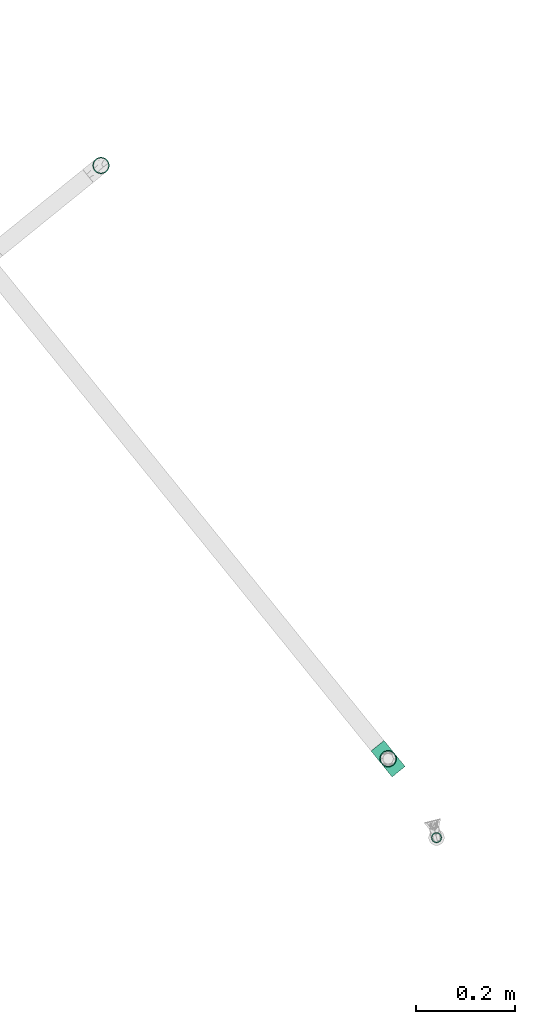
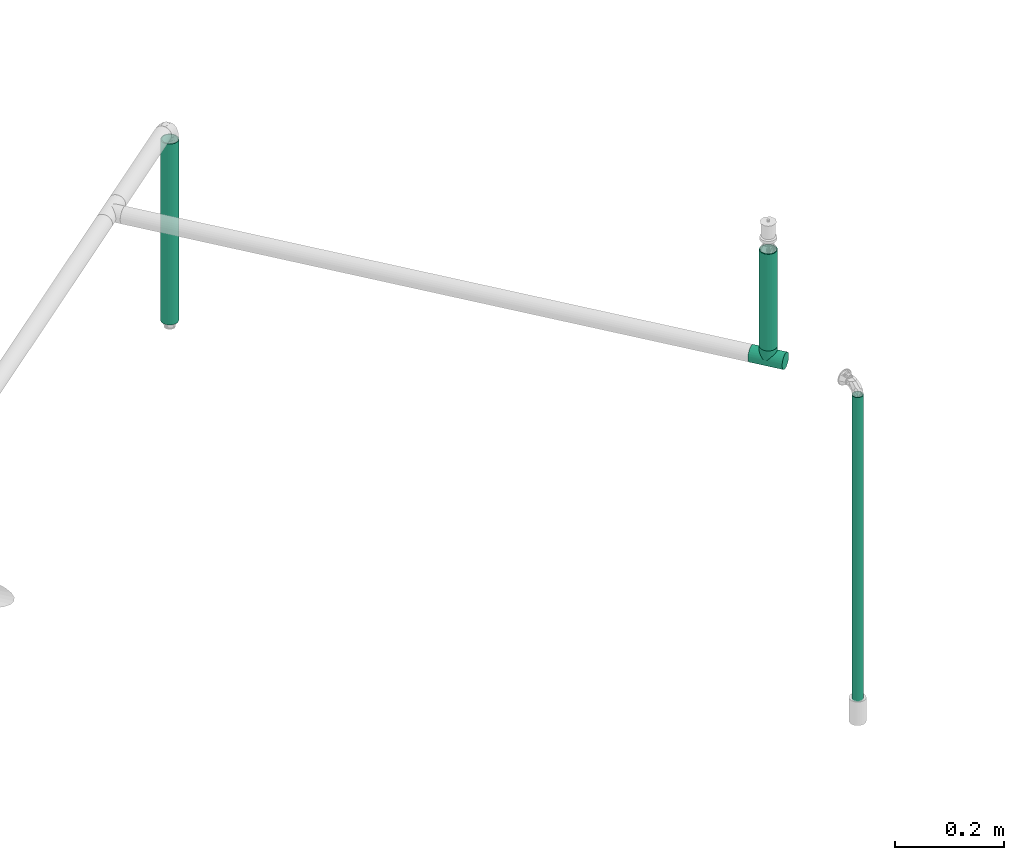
# One storey, part 21 of 94: 3 flow segments, 1 flow fitting.
"""IFC2X3 building model written with IfcOpenShell, lengths in millimetres."""

from ifc_helpers import new_model, entity, si_unit, converted_unit, derived_unit, direction, frame, origin_with_axes, origin_2d_with_axis, place, context, subcontext, project, spatial, hollow_circle, extrude, open_shell, surface_model, source, transform, mapped, type_object, element, save


model = new_model("IFC2X3")

# Units and contexts
model_context = context("Model", 3, precision=0.01, world=frame((0.0, 4.29681676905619e-09, 0.0)), true_north=direction((4.01073788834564e-13, 1.0)))
plan_context = context("Plan", 3, precision=0.01, world=frame((0.0, 4.29681676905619e-09, 0.0)), true_north=direction((4.01073788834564e-13, 1.0)))
body_context = subcontext(model_context, "Body", "Model", "MODEL_VIEW")
ifc_project = project(units=[converted_unit("PLANEANGLEUNIT", "DEGREE", entity("IfcPositiveLengthMeasure", 0.0174532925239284), si_unit("PLANEANGLEUNIT", "RADIAN"), dimensions=[0, 0, 0, 0, 0, 0, 0]), si_unit("AREAUNIT", "SQUARE_METRE"), si_unit("LENGTHUNIT", "METRE", prefix="MILLI"), si_unit("MASSUNIT", "GRAM", prefix="KILO"), si_unit("POWERUNIT", "WATT"), si_unit("PRESSUREUNIT", "PASCAL", prefix="KILO"), si_unit("FORCEUNIT", "NEWTON", prefix="KILO"), si_unit("ELECTRICVOLTAGEUNIT", "VOLT"), si_unit("ELECTRICCURRENTUNIT", "AMPERE"), si_unit("THERMODYNAMICTEMPERATUREUNIT", "DEGREE_CELSIUS"), si_unit("TIMEUNIT", "SECOND"), si_unit("VOLUMEUNIT", "CUBIC_METRE"), derived_unit("LINEARVELOCITYUNIT", [(si_unit("LENGTHUNIT", "METRE"), 1), (si_unit("TIMEUNIT", "SECOND"), -1)]), derived_unit("VOLUMETRICFLOWRATEUNIT", [(si_unit("VOLUMEUNIT", "CUBIC_METRE"), 1), (si_unit("TIMEUNIT", "SECOND"), -1)]), derived_unit("THERMALTRANSMITTANCEUNIT", [(si_unit("POWERUNIT", "WATT"), 1), (si_unit("THERMODYNAMICTEMPERATUREUNIT", "KELVIN"), -1), (si_unit("AREAUNIT", "SQUARE_METRE"), -1)]), derived_unit("SOUNDPRESSUREUNIT", [(si_unit("PRESSUREUNIT", "PASCAL"), 1)])], contexts=[model_context, plan_context])

# Site, building, storey
site_placement = place(None, frame((0.0, -4.29681676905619e-09, 0.0), z_axis=(0.0, 0.0, 1.0), x_axis=(1.0, 0.0, 0.0)))
site = spatial("IfcSite", under=ifc_project, at=site_placement, CompositionType="ELEMENT")
building_placement = place(site_placement, frame((0.0, 4.29681676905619e-09, 0.0), z_axis=(0.0, 0.0, 1.0), x_axis=(1.0, 0.0, 0.0)))
building = spatial("IfcBuilding", under=site, at=building_placement, Name="mc-building", CompositionType="ELEMENT")
storey_placement = place(building_placement, frame((0.0, 0.0, 210900.0), z_axis=(0.0, 0.0, 1.0), x_axis=(1.0, 0.0, 0.0)))
storey = spatial("IfcBuildingStorey", under=building, at=storey_placement, Name="Nivå F", CompositionType="ELEMENT", Elevation=210900.0)

# Flow fitting
pipe_fitting_type = type_object("IfcPipeFittingType", Name="magi_pipe_fe_tee_centric_90_NOR", PredefinedType="JUNCTION")
shared_shape_1 = source(origin_with_axes(), body_context, "Body", "SurfaceModel", [
    surface_model("IfcShellBasedSurfaceModel", [(-33.8, 4.37404, -16.32415), (-33.8, 0.0, -16.9), (-33.8, 16.32415, -4.37404), (-33.8, 8.45, -14.63583), (-33.8, 11.9501, -11.9501), (-33.8, 14.63583, -8.45), (-33.8, -16.9, 0.0), (-33.8, -11.9501, -11.9501), (-33.8, -14.63583, -8.45), (-33.8, -8.45, -14.63583), (-33.8, -4.37404, -16.32415), (-33.8, -16.32415, -4.37404), (-33.8, 14.63583, 8.45), (-33.8, 16.32415, 4.37404), (-33.8, -8.45, 14.63583), (-33.8, 8.45, 14.63583), (-33.8, 11.9501, 11.9501), (-33.8, 4.37404, 16.32415), (-33.8, 0.0, 16.9), (-33.8, -11.9501, 11.9501), (-33.8, -14.63583, 8.45), (-33.8, -16.32415, 4.37404), (-33.8, -4.37404, 16.32415), (-33.8, 16.9, 0.0), (33.8, 4.37404, -16.32415), (33.8, -16.9, 0.0), (33.8, 0.0, -16.9), (33.8, 14.63583, -8.45), (33.8, 8.45, -14.63583), (33.8, 16.32415, -4.37404), (33.8, 11.9501, -11.9501), (33.8, -16.32415, 4.37404), (33.8, -8.45, -14.63583), (33.8, -4.37404, -16.32415), (33.8, -11.9501, -11.9501), (33.8, -14.63583, -8.45), (33.8, -16.32415, -4.37404), (33.8, 16.32415, 4.37404), (33.8, 8.45, 14.63583), (33.8, 14.63583, 8.45), (33.8, 11.9501, 11.9501), (33.8, -8.45, 14.63583), (33.8, 4.37404, 16.32415), (33.8, -14.63583, 8.45), (33.8, -11.9501, 11.9501), (33.8, 0.0, 16.9), (33.8, -4.37404, 16.32415), (33.8, 16.9, 0.0), (16.28698, -16.28698, 4.51047), (16.9, -16.9, 0.0), (14.62704, -14.62704, 8.4652), (9.47213, -9.47213, 13.99602), (12.26343, -12.26343, 11.62834), (-16.9, -16.9, 0.0), (-16.28698, -16.28698, 4.51047), (-14.62704, -14.62704, 8.4652), (-12.26343, -12.26343, 11.62834), (-9.47213, -9.47213, 13.99602), (-6.42894, -6.42894, 15.62942), (6.42894, -6.42894, 15.62942), (3.24522, -3.24522, 16.58549), (0.0, 0.0, 16.9), (-3.24522, -3.24522, 16.58549), (3.24522, -3.24522, -16.58549), (0.0, 0.0, -16.9), (-3.24522, -3.24522, -16.58549), (-6.42894, -6.42894, -15.62942), (6.42894, -6.42894, -15.62942), (9.47213, -9.47213, -13.99602), (12.26343, -12.26343, -11.62834), (14.62704, -14.62704, -8.4652), (16.28698, -16.28698, -4.51047), (-9.47213, -9.47213, -13.99602), (-12.26343, -12.26343, -11.62834), (-16.28698, -16.28698, -4.51047), (-14.62704, -14.62704, -8.4652), (4.37404, -25.35, -16.32415), (-16.9, -25.35, 0.0), (0.0, -25.35, -16.9), (14.63583, -25.35, -8.45), (8.45, -25.35, -14.63583), (16.32415, -25.35, -4.37404), (11.9501, -25.35, -11.9501), (-11.9501, -25.35, -11.9501), (-8.45, -25.35, -14.63583), (-4.37404, -25.35, -16.32415), (-14.63583, -25.35, -8.45), (-16.32415, -25.35, -4.37404), (16.9, -25.35, 0.0), (8.45, -25.35, 14.63583), (16.32415, -25.35, 4.37404), (14.63583, -25.35, 8.45), (-8.45, -25.35, 14.63583), (11.9501, -25.35, 11.9501), (4.37404, -25.35, 16.32415), (-16.32415, -25.35, 4.37404), (-11.9501, -25.35, 11.9501), (-14.63583, -25.35, 8.45), (0.0, -25.35, 16.9), (-4.37404, -25.35, 16.32415)], [open_shell([[[0, 1, 2]], [[3, 0, 4]], [[0, 2, 5]], [[4, 0, 5]], [[6, 2, 1]], [[7, 8, 9]], [[1, 10, 9]], [[11, 6, 8]], [[1, 9, 8]], [[1, 8, 6]], [[6, 12, 2]], [[12, 13, 2]], [[14, 12, 6]], [[12, 14, 15]], [[16, 12, 15]], [[17, 15, 18]], [[19, 14, 20]], [[21, 20, 14]], [[22, 18, 14]], [[14, 6, 21]], [[14, 18, 15]], [[23, 2, 13]], [[24, 25, 26]], [[27, 24, 28]], [[27, 29, 24]], [[27, 28, 30]], [[31, 25, 24]], [[26, 32, 33]], [[26, 34, 32]], [[35, 25, 36]], [[35, 34, 26]], [[25, 35, 26]], [[24, 29, 31]], [[29, 37, 38]], [[38, 37, 39]], [[38, 31, 29]], [[38, 39, 40]], [[41, 38, 42]], [[43, 41, 44]], [[41, 43, 31]], [[41, 45, 46]], [[41, 31, 38]], [[42, 45, 41]], [[29, 47, 37]], [[31, 43, 48]], [[25, 31, 49]], [[49, 31, 48]], [[43, 50, 48]], [[44, 41, 51]], [[50, 43, 52]], [[51, 52, 44]], [[52, 43, 44]], [[53, 54, 21]], [[53, 21, 6]], [[21, 54, 20]], [[54, 55, 20]], [[56, 57, 19]], [[19, 20, 56]], [[19, 57, 14]], [[56, 20, 55]], [[14, 57, 58]], [[51, 41, 59]], [[60, 45, 61]], [[59, 46, 60]], [[46, 59, 41]], [[60, 46, 45]], [[61, 45, 42]], [[39, 37, 13]], [[16, 38, 40]], [[12, 40, 39]], [[42, 38, 15]], [[23, 37, 47]], [[62, 61, 18]], [[62, 22, 58]], [[22, 62, 18]], [[58, 22, 14]], [[61, 17, 18]], [[42, 17, 61]], [[15, 17, 42]], [[15, 38, 16]], [[12, 16, 40]], [[13, 12, 39]], [[37, 23, 13]], [[5, 27, 30]], [[23, 47, 29]], [[30, 28, 3]], [[27, 2, 29]], [[26, 33, 63]], [[26, 64, 24]], [[64, 26, 63]], [[28, 24, 0]], [[64, 0, 24]], [[4, 30, 3]], [[2, 27, 5]], [[5, 30, 4]], [[2, 23, 29]], [[65, 66, 10]], [[1, 0, 64]], [[1, 65, 10]], [[66, 9, 10]], [[0, 3, 28]], [[1, 64, 65]], [[63, 33, 67]], [[32, 34, 68]], [[69, 68, 34]], [[35, 70, 69]], [[69, 34, 35]], [[32, 68, 67]], [[36, 25, 49]], [[36, 71, 35]], [[71, 36, 49]], [[35, 71, 70]], [[72, 9, 66]], [[72, 7, 9]], [[7, 72, 73]], [[7, 73, 8]], [[74, 53, 11]], [[75, 74, 8]], [[74, 11, 8]], [[11, 53, 6]], [[75, 8, 73]], [[32, 67, 33]], [[76, 77, 78]], [[79, 76, 80]], [[79, 81, 76]], [[79, 80, 82]], [[77, 76, 81]], [[78, 83, 84]], [[84, 85, 78]], [[86, 77, 87]], [[83, 78, 86]], [[77, 86, 78]], [[81, 88, 77]], [[89, 88, 90]], [[89, 90, 91]], [[92, 77, 89]], [[89, 91, 93]], [[92, 89, 94]], [[95, 96, 97]], [[96, 95, 92]], [[92, 98, 99]], [[95, 77, 92]], [[94, 98, 92]], [[89, 77, 88]], [[77, 95, 53]], [[54, 53, 95]], [[97, 96, 56]], [[96, 92, 57]], [[95, 97, 54]], [[58, 92, 99]], [[55, 54, 97]], [[56, 55, 97]], [[58, 57, 92]], [[98, 61, 62]], [[58, 99, 62]], [[56, 96, 57]], [[62, 99, 98]], [[94, 60, 98]], [[89, 59, 94]], [[91, 90, 48]], [[52, 93, 91]], [[93, 51, 89]], [[49, 90, 88]], [[59, 60, 94]], [[51, 59, 89]], [[49, 48, 90]], [[50, 52, 91]], [[48, 50, 91]], [[51, 93, 52]], [[98, 60, 61]], [[88, 81, 49]], [[71, 49, 81]], [[79, 82, 69]], [[82, 80, 68]], [[81, 79, 71]], [[67, 80, 76]], [[70, 71, 79]], [[69, 70, 79]], [[67, 68, 80]], [[78, 64, 63]], [[67, 76, 63]], [[69, 82, 68]], [[63, 76, 78]], [[85, 65, 78]], [[84, 66, 85]], [[86, 87, 74]], [[86, 73, 83]], [[72, 84, 83]], [[53, 87, 77]], [[66, 65, 85]], [[72, 66, 84]], [[53, 74, 87]], [[75, 73, 86]], [[74, 75, 86]], [[72, 83, 73]], [[78, 65, 64]]])]),
])
flow_fitting_placement = place(storey_placement, frame((727302.06172, 443560.15199, 3500.0), z_axis=(0.777146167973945, 0.629320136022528, 0.0), x_axis=(0.629320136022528, -0.777146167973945, 0.0)))
element("IfcFlowFitting", 1, at=flow_fitting_placement, inside=storey, type_object=pipe_fitting_type, Name="magi_pipe_fe_tee_centric_90_NOR", context=body_context, shape_type="MappedRepresentation", body=[
    mapped(shared_shape_1, transform((0.0, 0.0, 0.0), scale=1.0)),
])

# Flow segments
pipe_segment_type = type_object("IfcPipeSegmentType", Name="Stålrør normaltykke", PredefinedType="RIGIDSEGMENT")
shared_shape_2 = source(origin_with_axes(), body_context, "Body", "SweptSolid", [
    extrude(hollow_circle(Radius=16.9, WallThickness=2.0, at=origin_2d_with_axis()), frame((0.0, 0.0, 0.0), z_axis=(1.0, 0.0, 0.0), x_axis=(0.0, 1.0, 0.0)), (0.0, 0.0, 1.0), 406.8),
])
flow_segment_1_placement = place(storey_placement, frame((726721.57541, 444759.82541, 3466.20000000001), z_axis=(-1.0, 0.0, 0.0), x_axis=(0.0, 0.0, -1.0)))
element("IfcFlowSegment", 2, at=flow_segment_1_placement, inside=storey, type_object=pipe_segment_type, Name="Stålrør normaltykke", context=body_context, shape_type="MappedRepresentation", body=[
    mapped(shared_shape_2, transform((0.0, 0.0, 0.0), scale=1.0)),
])
shared_shape_3 = source(origin_with_axes(), body_context, "Body", "SweptSolid", [
    extrude(hollow_circle(Radius=16.9, WallThickness=2.0, at=origin_2d_with_axis()), frame((0.0, 0.0, 0.0), z_axis=(1.0, 0.0, 0.0), x_axis=(0.0, 1.0, 0.0)), (0.0, 0.0, 1.0), 217.3),
])
flow_segment_2_placement = place(storey_placement, frame((727302.06172, 443560.15199, 3525.35000000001), z_axis=(-0.000893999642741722, -0.99999960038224, 0.0), x_axis=(0.0, 0.0, 1.0)))
element("IfcFlowSegment", 3, at=flow_segment_2_placement, inside=storey, type_object=pipe_segment_type, Name="Stålrør normaltykke", context=body_context, shape_type="MappedRepresentation", body=[
    mapped(shared_shape_3, transform((0.0, 0.0, 0.0), scale=1.0, scale2=1.0, scale3=1.0, uniform=False)),
])
shared_shape_4 = source(origin_with_axes(), body_context, "Body", "SweptSolid", [
    extrude(hollow_circle(Radius=10.7, WallThickness=2.0, at=origin_2d_with_axis()), frame((0.0, 0.0, 0.0), z_axis=(1.0, 0.0, 0.0), x_axis=(0.0, 1.0, 0.0)), (0.0, 0.0, 1.0), 684.1),
])
flow_segment_3_placement = place(storey_placement, frame((727400.0, 443400.7, 2794.49074000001), z_axis=(0.0, -1.0, 0.0), x_axis=(0.0, 0.0, 1.0)))
element("IfcFlowSegment", 4, at=flow_segment_3_placement, inside=storey, type_object=pipe_segment_type, Name="Stålrør normaltykke", context=body_context, shape_type="MappedRepresentation", body=[
    mapped(shared_shape_4, transform((0.0, 0.0, 0.0), scale=1.0)),
])

save(model, "model.ifc")
